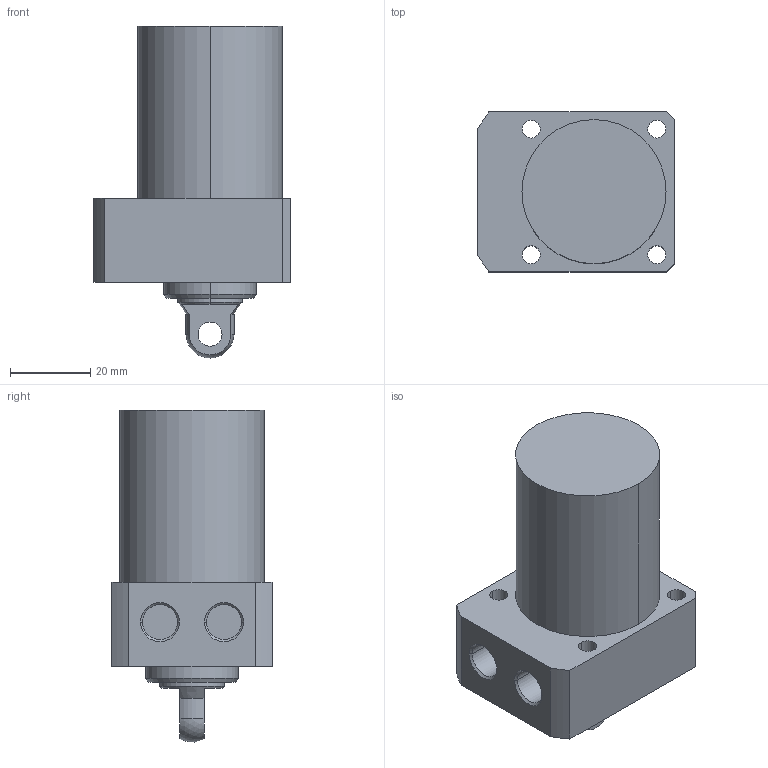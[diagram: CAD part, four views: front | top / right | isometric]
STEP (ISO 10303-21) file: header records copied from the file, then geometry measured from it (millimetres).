
FILE_DESCRIPTION((' '),'2;1');
FILE_NAME( 'TLLR-036CP-035.STEP.stp', '2025-10-24T16:35:48', (' '), ('--- Datakit www.datakit.com---'), ' Datakit CrossCadWare V2024.1 Dec 21 2023', 'Mastercam 2025', ' ');
FILE_SCHEMA(('AUTOMOTIVE_DESIGN { 1 0 10303 214 1 1 1 1 }'));
Length unit declared in the file: millimetre
Products named in the file (1): TLLR-036CP-035
Bounding box: 49 x 40 x 82.97 mm (x, y, z)
Volume: 84313.8 mm3; surface area: 14887 mm2
Topology: 1 solids, 1 shells, 55 faces, 157 edges, 111 vertices
Faces by surface type: cylinder 28, plane 18, cone 8, sphere 1
Entity records: 1924 total; most frequent: DIRECTION 360, CARTESIAN_POINT 336, ORIENTED_EDGE 314, EDGE_CURVE 157, AXIS2_PLACEMENT_3D 151, VERTEX_POINT 111, CIRCLE 95, EDGE_LOOP 72
